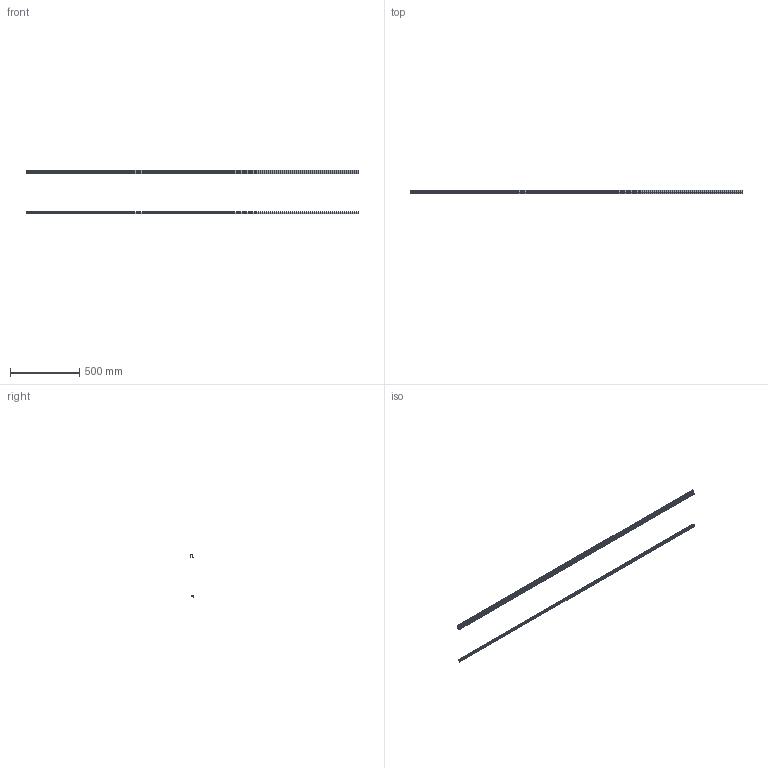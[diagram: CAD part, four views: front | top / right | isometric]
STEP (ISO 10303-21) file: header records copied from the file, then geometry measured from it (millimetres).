
FILE_DESCRIPTION(('CATIA V5 STEP Exchange'),'2;1');
FILE_NAME('C:\Users\varg\Desktop\VIJAY\9239310_3D.stp','2017-09-18T10:16:34+00:00',('none'),('none'),'CATIA Version 5 Release 20 SP 7 (IN-10)','CATIA V5 STEP AP203','none');
FILE_SCHEMA(('CONFIG_CONTROL_DESIGN'));
Length unit declared in the file: millimetre
Products named in the file (1): 9239310_3D
Bounding box: 2400 x 23 x 313.1 mm (x, y, z)
Volume: 392193.1 mm3; surface area: 491596.7 mm2
Topology: 2 solids, 2 shells, 76 faces, 216 edges, 144 vertices
Faces by surface type: plane 51, bspline 25
Entity records: 2800 total; most frequent: CARTESIAN_POINT 1053, ORIENTED_EDGE 432, DIRECTION 243, EDGE_CURVE 216, VERTEX_POINT 144, VECTOR 141, LINE 141, ADVANCED_FACE 76
